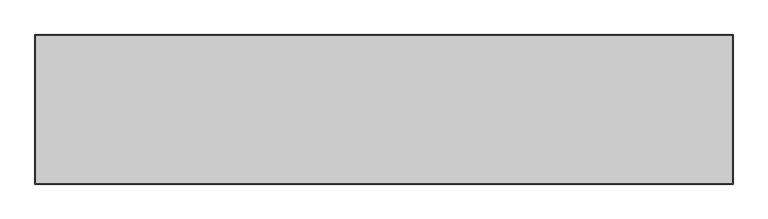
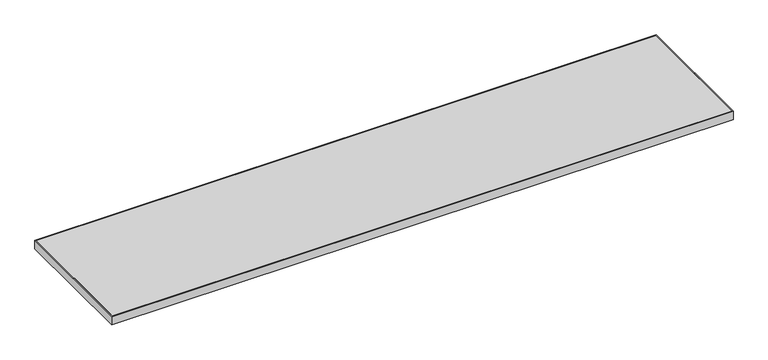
"""IFC4 building model written with IfcOpenShell, lengths in millimetres: furniture geometry, Steelcase - Universal Storage - Square Edge Top - Flush Front - Laminate : Common Top - 18D x 84W."""

from ifc_helpers import new_model, si_unit, frame, origin, place, context, project, spatial, polyline, outline, extrude, source, transform, mapped, element, save


def furniture_19fdfd23(model_context):
    return source(origin(), model_context, "Body", "SweptSolid", [
        extrude(outline(polyline([(2130.5520001, -3.0479999), (2130.5520001, -454.1520001), (3.0479999, -454.1520001), (3.0479999, -3.0479999), (2130.5520001, -3.0479999)])), frame((0.0, 0.0, 680.72), z_axis=(0.0, 0.0, 1.0), x_axis=(1.0, 0.0, 0.0)), (0.0, 0.0, 1.0), 30.48),
        extrude(outline(polyline([(2133.6, 0.0), (2133.6, -457.2), (0.0, -457.2), (0.0, 0.0), (2133.6, 0.0)]), holes=[polyline([(2130.5520001, -3.0479999), (3.0479999, -3.0479999), (3.0479999, -454.1520001), (2130.5520001, -454.1520001), (2130.5520001, -3.0479999)])]), frame((0.0, 0.0, 680.72), z_axis=(0.0, 0.0, 1.0), x_axis=(1.0, 0.0, 0.0)), (0.0, 0.0, 1.0), 30.48),
    ])


if __name__ == "__main__":
    model = new_model("IFC4")
    model_context = context("Model", 3, world=origin())
    ifc_project = project(units=[si_unit("LENGTHUNIT", "METRE", prefix="MILLI")], contexts=[model_context])
    site = spatial("IfcSite", under=ifc_project)
    building = spatial("IfcBuilding", under=site)
    placement = place(None, origin())
    furniture_shape = furniture_19fdfd23(model_context)
    element("IfcFurniture", 1, ObjectType="Steelcase - Universal Storage - Square Edge Top - Flush Front - Laminate : Common Top - 18D x 84W", at=placement, inside=building, context=model_context, shape_type="MappedRepresentation", body=[
        mapped(furniture_shape, transform((0.0, 0.0, 0.0), x_axis=(1.0, 0.0, 0.0), y_axis=(0.0, 1.0, 0.0), z_axis=(0.0, 0.0, 1.0))),
    ])
    save(model, "model.ifc")
